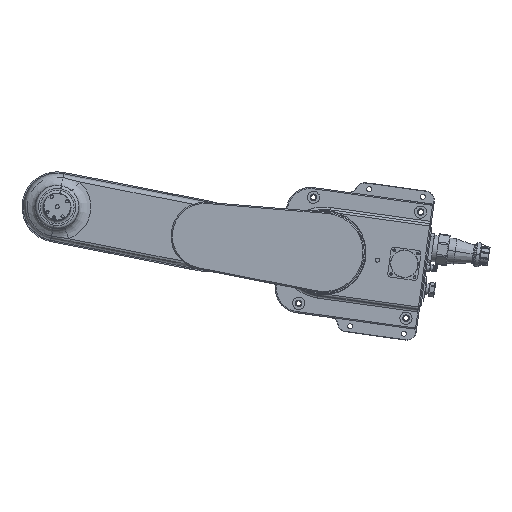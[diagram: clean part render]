
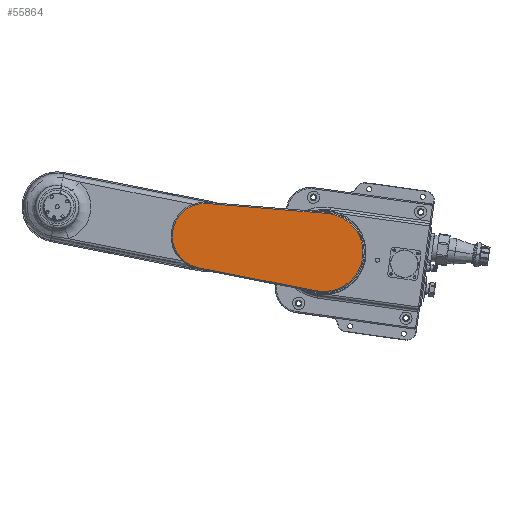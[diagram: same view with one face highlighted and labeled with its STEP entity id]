
A CAD part, top view. The second image highlights one B-rep face of the part: STEP entity #55864.
In plain terms, the highlighted planar face has unit normal (0, 0, 1).
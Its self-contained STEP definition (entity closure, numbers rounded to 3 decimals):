
#55438=DIRECTION('',(0.997,-0.083,0.));
#55439=VECTOR('',#55438,199.697);
#55440=CARTESIAN_POINT('',(-148.753,198.272,
-575.487));
#55441=LINE('',#55440,#55439);
#55442=CARTESIAN_POINT('',(44.898,117.012,
-575.487));
#55443=DIRECTION('',(0.,0.,-1.));
#55444=DIRECTION('',(0.083,0.997,0.));
#55445=AXIS2_PLACEMENT_3D('',#55442,#55443,#55444);
#55447=CARTESIAN_POINT('',(44.898,117.012,
-575.487));
#55448=DIRECTION('',(0.,0.,-1.));
#55449=DIRECTION('',(0.137,0.991,0.));
#55450=AXIS2_PLACEMENT_3D('',#55447,#55448,#55449);
#55452=CARTESIAN_POINT('',(44.898,117.012,
-575.487));
#55453=DIRECTION('',(0.,0.,-1.));
#55454=DIRECTION('',(-0.137,-0.991,0.));
#55455=AXIS2_PLACEMENT_3D('',#55452,#55453,#55454);
#55457=DIRECTION('',(-0.981,0.191,0.));
#55458=VECTOR('',#55457,199.697);
#55459=CARTESIAN_POINT('',(32.451,53.215,
-575.487));
#55460=LINE('',#55459,#55458);
#55461=CARTESIAN_POINT('',(-153.21,144.456,
-575.487));
#55462=DIRECTION('',(0.,0.,-1.));
#55463=DIRECTION('',(-0.191,-0.981,0.));
#55464=AXIS2_PLACEMENT_3D('',#55461,#55462,#55463);
#55552=CARTESIAN_POINT('',(50.263,181.79,
-575.487));
#55553=VERTEX_POINT('',#55552);
#55554=CARTESIAN_POINT('',(-148.753,198.272,
-575.487));
#55555=VERTEX_POINT('',#55554);
#55556=CARTESIAN_POINT('',(53.818,181.397,
-575.487));
#55557=VERTEX_POINT('',#55556);
#55558=CARTESIAN_POINT('',(35.978,52.626,
-575.487));
#55559=VERTEX_POINT('',#55558);
#55560=CARTESIAN_POINT('',(32.451,53.215,
-575.487));
#55561=VERTEX_POINT('',#55560);
#55562=CARTESIAN_POINT('',(-163.551,91.456,
-575.487));
#55563=VERTEX_POINT('',#55562);
#55847=CARTESIAN_POINT('',(44.898,117.012,
-575.487));
#55848=DIRECTION('',(0.,0.,-1.));
#55849=DIRECTION('',(-0.137,-0.991,0.));
#55850=AXIS2_PLACEMENT_3D('',#55847,#55848,#55849);
#55851=PLANE('',#55850);
#55852=ORIENTED_EDGE('',*,*,#55811,.T.);
#55853=ORIENTED_EDGE('',*,*,#55831,.T.);
#55855=ORIENTED_EDGE('',*,*,#55854,.T.);
#55857=ORIENTED_EDGE('',*,*,#55856,.T.);
#55859=ORIENTED_EDGE('',*,*,#55858,.T.);
#55861=ORIENTED_EDGE('',*,*,#55860,.T.);
#55862=EDGE_LOOP('',(#55852,#55853,#55855,#55857,#55859,#55861));
#55863=FACE_OUTER_BOUND('',#55862,.F.);
#55446=CIRCLE('',#55445,65.);
#55451=CIRCLE('',#55450,65.);
#55456=CIRCLE('',#55455,65.);
#55465=CIRCLE('',#55464,54.);
#55811=EDGE_CURVE('',#55555,#55553,#55441,.T.);
#55831=EDGE_CURVE('',#55553,#55557,#55446,.T.);
#55854=EDGE_CURVE('',#55557,#55559,#55451,.T.);
#55856=EDGE_CURVE('',#55559,#55561,#55456,.T.);
#55858=EDGE_CURVE('',#55561,#55563,#55460,.T.);
#55860=EDGE_CURVE('',#55563,#55555,#55465,.T.);
#55864=ADVANCED_FACE('',(#55863),#55851,.F.);
